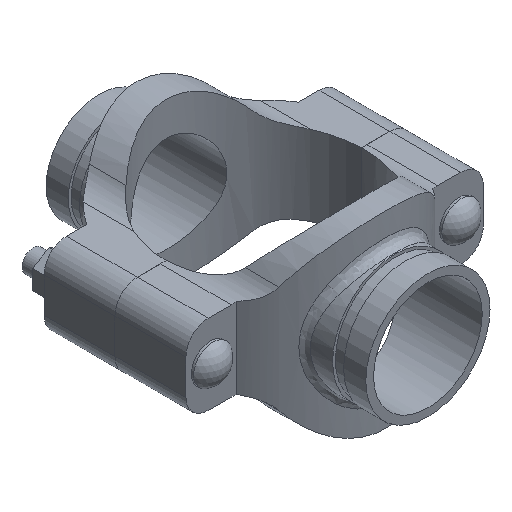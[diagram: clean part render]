
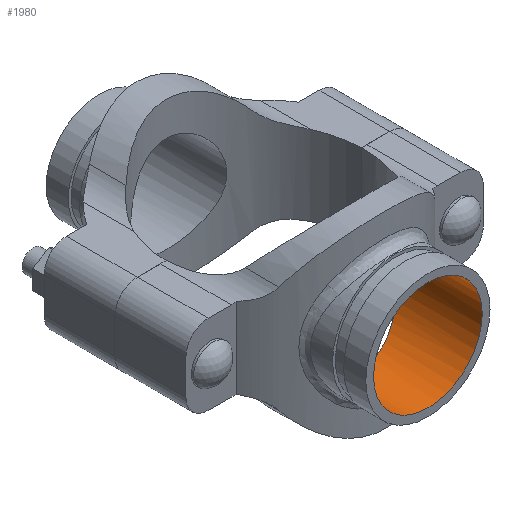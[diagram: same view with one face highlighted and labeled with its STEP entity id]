
A CAD part, isometric view. The second image highlights one B-rep face of the part: STEP entity #1980.
In plain terms, the highlighted cylindrical face has radius 38.894 mm (diameter 77.787 mm), a full revolution.
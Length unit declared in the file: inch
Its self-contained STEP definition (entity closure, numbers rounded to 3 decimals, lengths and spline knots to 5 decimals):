
#50=B_SPLINE_CURVE_WITH_KNOTS('',3,(#3944,#3945,#3946,#3947,#3948,#3949,
#3950,#3951,#3952,#3953,#3954,#3955,#3956,#3957,#3958,#3959,#3960,#3961,
#3962,#3963,#3964,#3965,#3966,#3967,#3968,#3969,#3970,#3971,#3972,#3973,
#3974,#3975,#3976,#3977,#3978,#3979,#3980,#3981,#3982,#3983,#3984,#3985,
#3986,#3987,#3988,#3989,#3990,#3991,#3992,#3993,#3994,#3995,#3996,#3997,
#3998,#3999,#4000,#4001,#4002,#4003,#4004,#4005,#4006,#4007,#4008,#4009),
 .UNSPECIFIED.,.T.,.F.,(4,2,2,2,2,2,2,2,2,2,2,2,2,2,2,2,2,2,2,2,2,2,2,2,
2,2,2,2,2,2,2,2,4),(0.,0.75353,1.50707,2.2606,
3.01414,3.76428,4.51443,5.26457,6.01472,
6.76486,7.51501,8.26515,9.0153,9.76883,
10.52237,11.2759,12.02944,12.78297,13.53651,
14.29004,15.04358,15.79372,16.54387,17.29401,
18.04416,18.7943,19.54444,20.29459,21.04473,
21.79827,22.5518,23.30534,24.05887),
 .UNSPECIFIED.);
#95=CYLINDRICAL_SURFACE('',#2213,1.53125);
#212=FACE_OUTER_BOUND('',#334,.T.);
#334=EDGE_LOOP('',(#1588,#1589,#1590,#1591));
#484=LINE('',#3943,#632);
#632=VECTOR('',#2674,1.53125);
#730=CIRCLE('',#2214,1.53125);
#895=VERTEX_POINT('',#3940);
#896=VERTEX_POINT('',#3942);
#1140=EDGE_CURVE('',#895,#895,#730,.T.);
#1141=EDGE_CURVE('',#895,#896,#484,.T.);
#1142=EDGE_CURVE('',#896,#896,#50,.T.);
#1588=ORIENTED_EDGE('',*,*,#1140,.F.);
#1589=ORIENTED_EDGE('',*,*,#1141,.T.);
#1590=ORIENTED_EDGE('',*,*,#1142,.F.);
#1591=ORIENTED_EDGE('',*,*,#1141,.F.);
#1980=ADVANCED_FACE('',(#212),#95,.F.);
#2213=AXIS2_PLACEMENT_3D('',#3939,#2670,#2671);
#2214=AXIS2_PLACEMENT_3D('',#3941,#2672,#2673);
#2670=DIRECTION('center_axis',(0.,-1.,0.));
#2671=DIRECTION('ref_axis',(-1.,0.,0.));
#2672=DIRECTION('center_axis',(0.,-1.,0.));
#2673=DIRECTION('ref_axis',(-1.,0.,0.));
#2674=DIRECTION('',(0.,-1.,0.));
#3939=CARTESIAN_POINT('Origin',(0.,4.63,0.));
#3940=CARTESIAN_POINT('',(1.53125,4.63,0.));
#3941=CARTESIAN_POINT('Origin',(0.,4.63,0.));
#3942=CARTESIAN_POINT('',(1.53125,2.28424,0.));
#3943=CARTESIAN_POINT('',(1.53125,4.63,0.));
#3944=CARTESIAN_POINT('Ctrl Pts',(1.53125,2.28424,0.));
#3945=CARTESIAN_POINT('Ctrl Pts',(1.53125,2.28424,-0.09889));
#3946=CARTESIAN_POINT('Ctrl Pts',(1.52152,2.29086,-0.20015));
#3947=CARTESIAN_POINT('Ctrl Pts',(1.48162,2.31686,-0.39986));
#3948=CARTESIAN_POINT('Ctrl Pts',(1.45147,2.3362,-0.49832));
#3949=CARTESIAN_POINT('Ctrl Pts',(1.37278,2.38329,-0.68596));
#3950=CARTESIAN_POINT('Ctrl Pts',(1.32419,2.41101,-0.77534));
#3951=CARTESIAN_POINT('Ctrl Pts',(1.21265,2.46899,-0.94028));
#3952=CARTESIAN_POINT('Ctrl Pts',(1.14968,2.49921,-1.01583));
#3953=CARTESIAN_POINT('Ctrl Pts',(1.01614,2.55641,-1.14938));
#3954=CARTESIAN_POINT('Ctrl Pts',(0.94073,2.58555,-1.2123));
#3955=CARTESIAN_POINT('Ctrl Pts',(0.77574,2.63975,-1.32396));
#3956=CARTESIAN_POINT('Ctrl Pts',(0.68616,2.66476,-1.3727));
#3957=CARTESIAN_POINT('Ctrl Pts',(0.49807,2.70623,-1.45157));
#3958=CARTESIAN_POINT('Ctrl Pts',(0.39938,2.7227,-1.48176));
#3959=CARTESIAN_POINT('Ctrl Pts',(0.19957,2.74459,-1.5216));
#3960=CARTESIAN_POINT('Ctrl Pts',(0.09844,2.75,-1.53125));
#3961=CARTESIAN_POINT('Ctrl Pts',(-0.09844,2.75,-1.53125));
#3962=CARTESIAN_POINT('Ctrl Pts',(-0.19957,2.74459,-1.5216));
#3963=CARTESIAN_POINT('Ctrl Pts',(-0.39938,2.7227,-1.48176));
#3964=CARTESIAN_POINT('Ctrl Pts',(-0.49807,2.70623,-1.45157));
#3965=CARTESIAN_POINT('Ctrl Pts',(-0.68616,2.66476,-1.3727));
#3966=CARTESIAN_POINT('Ctrl Pts',(-0.77574,2.63975,-1.32396));
#3967=CARTESIAN_POINT('Ctrl Pts',(-0.94073,2.58555,-1.2123));
#3968=CARTESIAN_POINT('Ctrl Pts',(-1.01614,2.55641,-1.14938));
#3969=CARTESIAN_POINT('Ctrl Pts',(-1.14968,2.49921,-1.01583));
#3970=CARTESIAN_POINT('Ctrl Pts',(-1.21265,2.46899,-0.94028));
#3971=CARTESIAN_POINT('Ctrl Pts',(-1.32419,2.41101,-0.77534));
#3972=CARTESIAN_POINT('Ctrl Pts',(-1.37278,2.38329,-0.68596));
#3973=CARTESIAN_POINT('Ctrl Pts',(-1.45147,2.3362,-0.49832));
#3974=CARTESIAN_POINT('Ctrl Pts',(-1.48162,2.31686,-0.39986));
#3975=CARTESIAN_POINT('Ctrl Pts',(-1.52152,2.29086,-0.20015));
#3976=CARTESIAN_POINT('Ctrl Pts',(-1.53125,2.28424,-0.09889));
#3977=CARTESIAN_POINT('Ctrl Pts',(-1.53125,2.28424,0.09889));
#3978=CARTESIAN_POINT('Ctrl Pts',(-1.52152,2.29086,0.20015));
#3979=CARTESIAN_POINT('Ctrl Pts',(-1.48162,2.31686,0.39986));
#3980=CARTESIAN_POINT('Ctrl Pts',(-1.45147,2.3362,0.49832));
#3981=CARTESIAN_POINT('Ctrl Pts',(-1.37278,2.38329,0.68596));
#3982=CARTESIAN_POINT('Ctrl Pts',(-1.32419,2.41101,0.77534));
#3983=CARTESIAN_POINT('Ctrl Pts',(-1.21265,2.46899,0.94028));
#3984=CARTESIAN_POINT('Ctrl Pts',(-1.14968,2.49921,1.01583));
#3985=CARTESIAN_POINT('Ctrl Pts',(-1.01614,2.55641,1.14938));
#3986=CARTESIAN_POINT('Ctrl Pts',(-0.94073,2.58555,1.2123));
#3987=CARTESIAN_POINT('Ctrl Pts',(-0.77574,2.63975,1.32396));
#3988=CARTESIAN_POINT('Ctrl Pts',(-0.68616,2.66476,1.3727));
#3989=CARTESIAN_POINT('Ctrl Pts',(-0.49807,2.70623,1.45157));
#3990=CARTESIAN_POINT('Ctrl Pts',(-0.39938,2.7227,1.48176));
#3991=CARTESIAN_POINT('Ctrl Pts',(-0.19957,2.74459,1.5216));
#3992=CARTESIAN_POINT('Ctrl Pts',(-0.09844,2.75,1.53125));
#3993=CARTESIAN_POINT('Ctrl Pts',(0.09844,2.75,1.53125));
#3994=CARTESIAN_POINT('Ctrl Pts',(0.19957,2.74459,1.5216));
#3995=CARTESIAN_POINT('Ctrl Pts',(0.39938,2.7227,1.48176));
#3996=CARTESIAN_POINT('Ctrl Pts',(0.49807,2.70623,1.45157));
#3997=CARTESIAN_POINT('Ctrl Pts',(0.68616,2.66476,1.3727));
#3998=CARTESIAN_POINT('Ctrl Pts',(0.77574,2.63975,1.32396));
#3999=CARTESIAN_POINT('Ctrl Pts',(0.94073,2.58555,1.2123));
#4000=CARTESIAN_POINT('Ctrl Pts',(1.01614,2.55641,1.14938));
#4001=CARTESIAN_POINT('Ctrl Pts',(1.14968,2.49921,1.01583));
#4002=CARTESIAN_POINT('Ctrl Pts',(1.21265,2.46899,0.94028));
#4003=CARTESIAN_POINT('Ctrl Pts',(1.32419,2.41101,0.77534));
#4004=CARTESIAN_POINT('Ctrl Pts',(1.37278,2.38329,0.68596));
#4005=CARTESIAN_POINT('Ctrl Pts',(1.45147,2.3362,0.49832));
#4006=CARTESIAN_POINT('Ctrl Pts',(1.48162,2.31686,0.39986));
#4007=CARTESIAN_POINT('Ctrl Pts',(1.52152,2.29086,0.20015));
#4008=CARTESIAN_POINT('Ctrl Pts',(1.53125,2.28424,0.09889));
#4009=CARTESIAN_POINT('Ctrl Pts',(1.53125,2.28424,0.));
